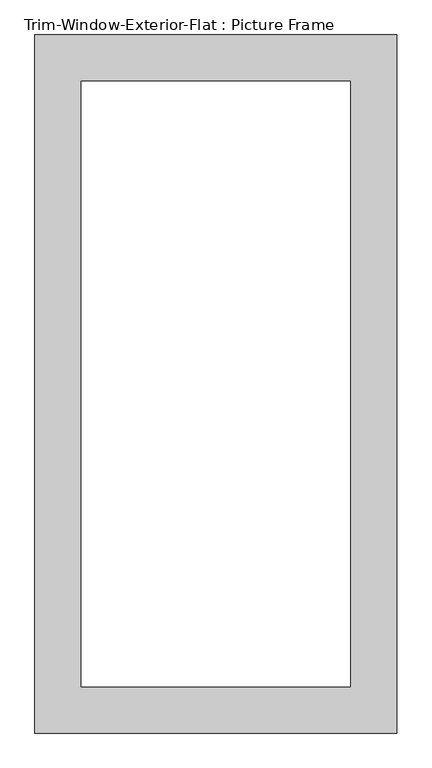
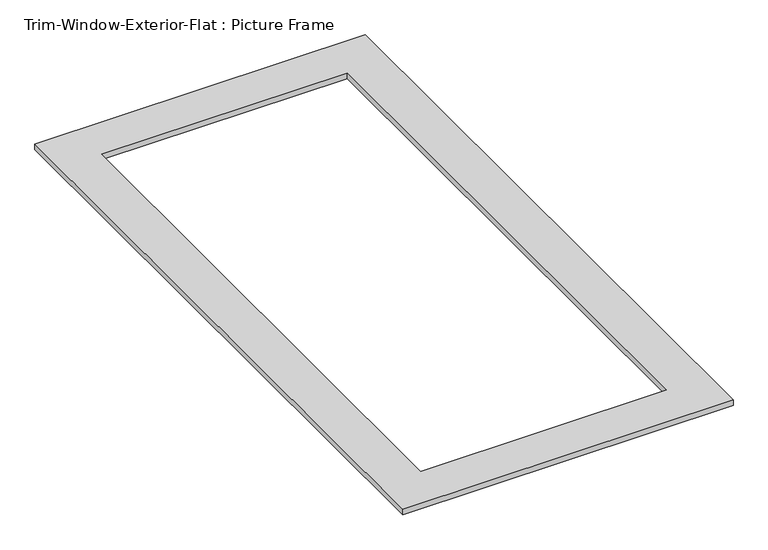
"""IFC4 building model written with IfcOpenShell, lengths in millimetres: proxy geometry, Trim-Window-Exterior-Flat : Picture Frame."""

from ifc_helpers import new_model, si_unit, origin, origin_with_axes, place, context, project, spatial, polyline, outline, extrude, source, transform, mapped, element, save


def trim_window_exterior_flat_picture_frame_27f6d03d(model_context):
    return source(origin(), model_context, "Body", "SweptSolid", [
        extrude(outline(polyline([(546.1, 139.7), (546.1, -1968.5), (-546.1, -1968.5), (-546.1, 139.7), (546.1, 139.7)]), holes=[polyline([(406.4, 0.0), (-406.4, 0.0), (-406.4, -1828.8), (406.4, -1828.8), (406.4, 0.0)])]), origin_with_axes(), (0.0, 0.0, 1.0), 19.05),
    ])


if __name__ == "__main__":
    model = new_model("IFC4")
    model_context = context("Model", 3, world=origin())
    ifc_project = project(units=[si_unit("LENGTHUNIT", "METRE", prefix="MILLI")], contexts=[model_context])
    site = spatial("IfcSite", under=ifc_project)
    building = spatial("IfcBuilding", under=site)
    placement = place(None, origin())
    trim_window_exterior_flat_picture_frame_shape = trim_window_exterior_flat_picture_frame_27f6d03d(model_context)
    element("IfcBuildingElementProxy", 1, Name="Trim-Window-Exterior-Flat : Picture Frame", ObjectType="Trim-Window-Exterior-Flat : Picture Frame", at=placement, inside=building, context=model_context, shape_type="MappedRepresentation", body=[
        mapped(trim_window_exterior_flat_picture_frame_shape, transform((0.0, 0.0, 0.0), x_axis=(1.0, 0.0, 0.0), y_axis=(0.0, 1.0, 0.0), z_axis=(0.0, 0.0, 1.0))),
    ])
    save(model, "model.ifc")
